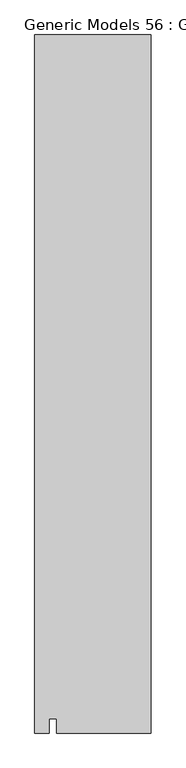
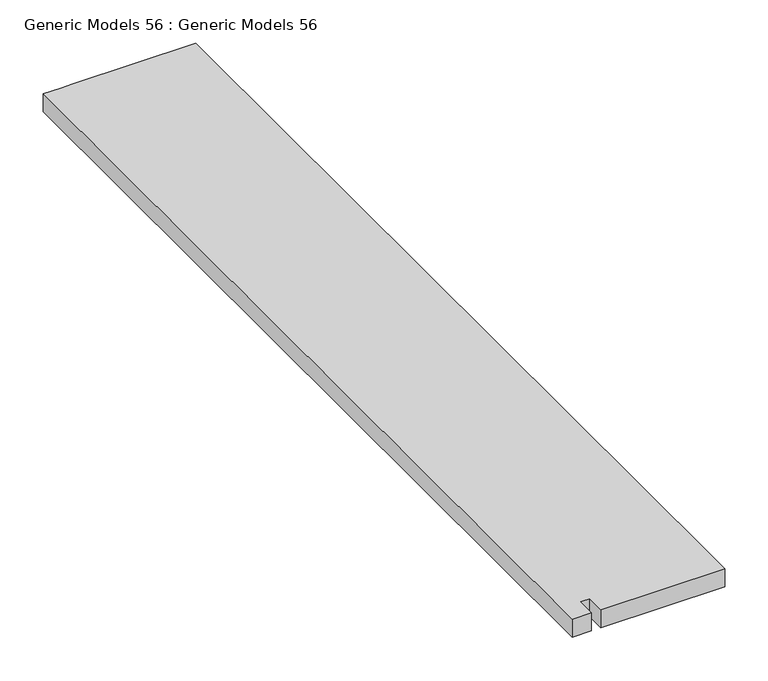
"""IFC4 building model written with IfcOpenShell, lengths in millimetres: proxy geometry, Generic Models 56 : Generic Models 56."""

from ifc_helpers import new_model, si_unit, origin, place, context, project, spatial, faceted_brep, source, transform, mapped, element, save


def generic_models_56_generic_models_56_30653bff(model_context):
    return source(origin(), model_context, "Body", "Brep", [
        faceted_brep([(4102.1, 7213.4947939, 4318.0), (3937.0, 7213.4947939, 4318.0), (3924.3, 7213.4947939, 4318.0), (3898.9, 7213.4947939, 4318.0), (3898.9, 5994.2947939, 4318.0), (3924.3, 5994.2947939, 4318.0), (3924.3, 6019.6947939, 4318.0), (3937.0, 6019.6947939, 4318.0), (3937.0, 5994.2947939, 4318.0), (4102.1, 5994.2947939, 4318.0), (4102.1, 6019.6947939, 4318.0), (4102.1, 7188.0947939, 4318.0), (4102.1, 7213.4947939, 4292.6), (4102.1, 5994.2947939, 4292.6), (3937.0, 5994.2947939, 4292.6), (3937.0, 6019.6947939, 4292.6), (3924.3, 6019.6947939, 4292.6), (3924.3, 5994.2947939, 4292.6), (3898.9, 5994.2947939, 4292.6), (3898.9, 7213.4947939, 4292.6), (3924.3, 7213.4947939, 4292.6), (3937.0, 7213.4947939, 4292.6)], [[[0, 1, 2, 3, 4, 5, 6, 7, 8, 9, 10, 11]], [[12, 13, 14, 15, 16, 17, 18, 19, 20, 21]], [[3, 2, 1, 0, 12, 21, 20, 19]], [[4, 3, 19, 18]], [[4, 18, 17, 5]], [[0, 11, 10, 9, 13, 12]], [[16, 6, 5, 17]], [[7, 15, 14, 8]], [[6, 16, 15, 7]], [[13, 9, 8, 14]]]),
    ])


if __name__ == "__main__":
    model = new_model("IFC4")
    model_context = context("Model", 3, world=origin())
    ifc_project = project(units=[si_unit("LENGTHUNIT", "METRE", prefix="MILLI")], contexts=[model_context])
    site = spatial("IfcSite", under=ifc_project)
    building = spatial("IfcBuilding", under=site)
    placement = place(None, origin())
    generic_models_56_generic_models_56_shape = generic_models_56_generic_models_56_30653bff(model_context)
    element("IfcBuildingElementProxy", 1, Name="Generic Models 56 : Generic Models 56", ObjectType="Generic Models 56 : Generic Models 56", at=placement, inside=building, context=model_context, shape_type="MappedRepresentation", body=[
        mapped(generic_models_56_generic_models_56_shape, transform((0.0, 0.0, 0.0), x_axis=(1.0, 0.0, 0.0), y_axis=(0.0, 1.0, 0.0), z_axis=(0.0, 0.0, 1.0))),
    ])
    save(model, "model.ifc")
